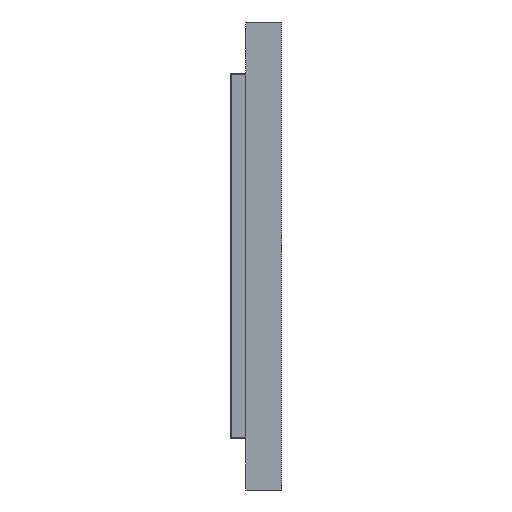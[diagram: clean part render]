
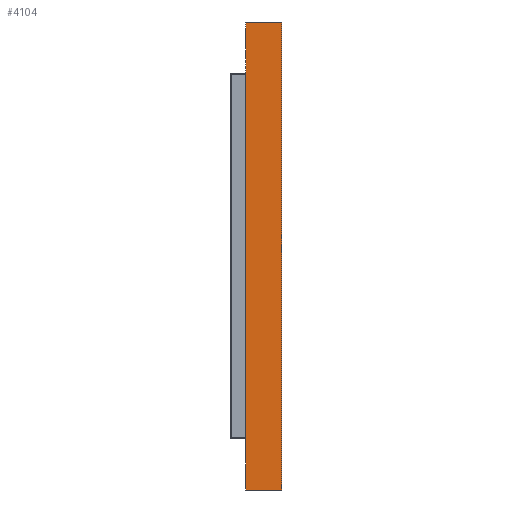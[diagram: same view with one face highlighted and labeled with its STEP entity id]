
A CAD part, left-side view. The second image highlights one B-rep face of the part: STEP entity #4104.
In plain terms, the highlighted planar face has unit normal (-1, 0, 0).
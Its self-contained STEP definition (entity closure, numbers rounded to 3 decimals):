
#937=DIRECTION('',(0.,1.,0.));
#938=VECTOR('',#937,10.);
#939=CARTESIAN_POINT('',(-255.65,0.,65.));
#940=LINE('',#939,#938);
#941=DIRECTION('',(0.,0.,1.));
#942=VECTOR('',#941,130.);
#943=CARTESIAN_POINT('',(-255.65,0.,-65.));
#944=LINE('',#943,#942);
#945=DIRECTION('',(0.,-1.,0.));
#946=VECTOR('',#945,10.);
#947=CARTESIAN_POINT('',(-255.65,10.,-65.));
#948=LINE('',#947,#946);
#949=DIRECTION('',(0.,0.,-1.));
#950=VECTOR('',#949,130.);
#951=CARTESIAN_POINT('',(-255.65,10.,65.));
#952=LINE('',#951,#950);
#2641=CARTESIAN_POINT('',(-255.65,0.,65.));
#2642=CARTESIAN_POINT('',(-255.65,10.,65.));
#2643=VERTEX_POINT('',#2641);
#2644=VERTEX_POINT('',#2642);
#2645=CARTESIAN_POINT('',(-255.65,10.,-65.));
#2646=VERTEX_POINT('',#2645);
#2647=CARTESIAN_POINT('',(-255.65,0.,-65.));
#2648=VERTEX_POINT('',#2647);
#4093=CARTESIAN_POINT('',(-255.65,0.,0.));
#4094=DIRECTION('',(-1.,0.,0.));
#4095=DIRECTION('',(0.,-1.,0.));
#4096=AXIS2_PLACEMENT_3D('',#4093,#4094,#4095);
#4097=PLANE('',#4096);
#4098=ORIENTED_EDGE('',*,*,#3489,.F.);
#4099=ORIENTED_EDGE('',*,*,#3504,.F.);
#4100=ORIENTED_EDGE('',*,*,#3626,.F.);
#4101=ORIENTED_EDGE('',*,*,#3639,.F.);
#4102=EDGE_LOOP('',(#4098,#4099,#4100,#4101));
#4103=FACE_OUTER_BOUND('',#4102,.F.);
#4104=ADVANCED_FACE('',(#4103),#4097,.T.);
#3489=EDGE_CURVE('',#2643,#2644,#940,.T.);
#3504=EDGE_CURVE('',#2648,#2643,#944,.T.);
#3626=EDGE_CURVE('',#2646,#2648,#948,.T.);
#3639=EDGE_CURVE('',#2644,#2646,#952,.T.);
